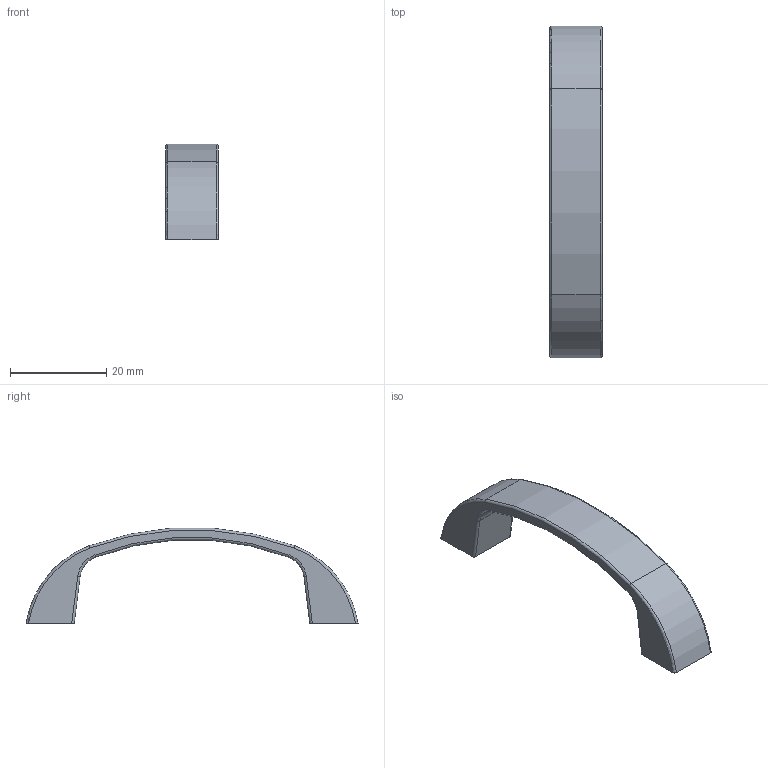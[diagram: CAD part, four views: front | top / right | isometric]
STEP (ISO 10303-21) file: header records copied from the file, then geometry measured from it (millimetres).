
FILE_DESCRIPTION(/* description */ (''),/* implementation_level */ '2;1');
FILE_NAME(/* name */ '\\NAS\db20\A-D59\DR_A-D59.stp',/* time_stamp */ '2017-07-08T11:51:10+09:00',/* author */ ('user'),/* organization */ (''),/* preprocessor_version */ 'ST-DEVELOPER v15.6',/* originating_system */ 'Autodesk Inventor 2015',/* authorisation */ '');
FILE_SCHEMA (('AUTOMOTIVE_DESIGN { 1 0 10303 214 3 1 1 }'));
Length unit declared in the file: millimetre
Products named in the file (1): DR_A-D59
Bounding box: 11 x 69 x 19.85 mm (x, y, z)
Volume: 3737.8 mm3; surface area: 2679 mm2
Topology: 1 solids, 1 shells, 32 faces, 76 edges, 46 vertices
Faces by surface type: cylinder 12, torus 12, plane 6, cone 2
Full cylindrical faces by diameter (mm): 3.242 x2
Entity records: 1002 total; most frequent: CARTESIAN_POINT 263, DIRECTION 160, ORIENTED_EDGE 140, EDGE_CURVE 70, AXIS2_PLACEMENT_3D 69, VERTEX_POINT 44, EDGE_LOOP 36, FACE_OUTER_BOUND 32
